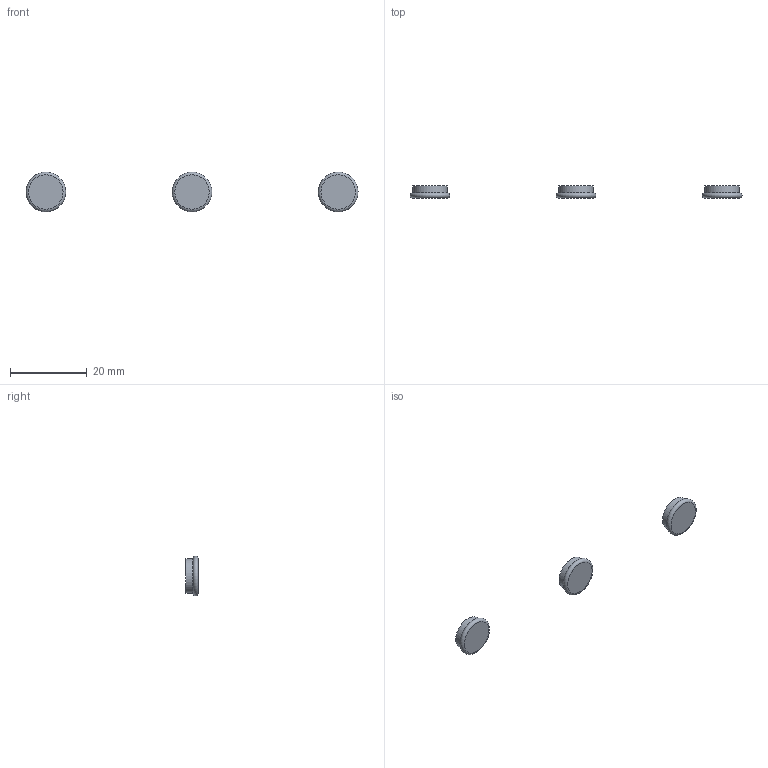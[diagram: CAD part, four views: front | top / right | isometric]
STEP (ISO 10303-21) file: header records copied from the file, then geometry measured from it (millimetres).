
FILE_DESCRIPTION(/* description */ (''),/* implementation_level */ '2;1');
FILE_NAME(/* name */ '/Users/laragrant/Documents/3d prints/snapFabric/wovens/maleSnap3.step',/* time_stamp */ '2016-07-12T18:25:17-04:00',/* author */ (''),/* organization */ (''),/* preprocessor_version */ 'ST-DEVELOPER v16.5',/* originating_system */ 'Autodesk Translation Framework v5.1.0.3141',/* authorisation */ '');
FILE_SCHEMA (('AUTOMOTIVE_DESIGN { 1 0 10303 214 3 1 1 }'));
Length unit declared in the file: centimetre
Products named in the file (1): maleSnap3 v1
Bounding box: 86.55 x 3.15 x 10.35 mm (x, y, z)
Volume: 665.8 mm3; surface area: 731.4 mm2
Topology: 3 solids, 3 shells, 12 faces, 15 edges, 9 vertices
Faces by surface type: plane 6, torus 3, cylinder 3
Full cylindrical faces by diameter (mm): 9 x3
Entity records: 236 total; most frequent: DIRECTION 44, CARTESIAN_POINT 31, AXIS2_PLACEMENT_3D 22, EDGE_LOOP 18, ORIENTED_EDGE 18, FACE_OUTER_BOUND 12, ADVANCED_FACE 12, CIRCLE 9
